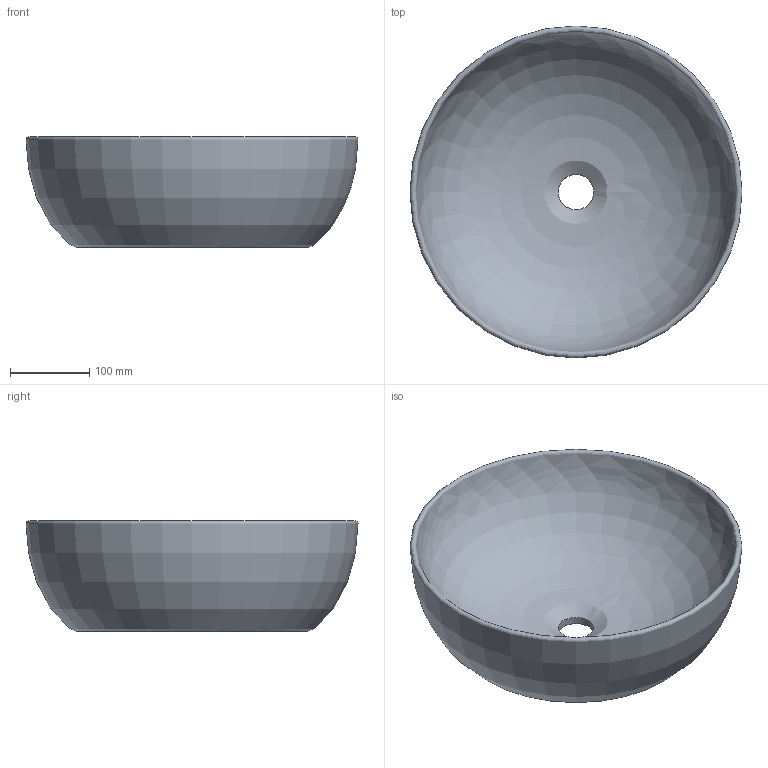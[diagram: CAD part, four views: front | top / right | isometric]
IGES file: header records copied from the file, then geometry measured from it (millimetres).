
Global section: file name: C:\Users\DE NITTO FULVIO\Desktop\Nic\2017\Maggio\Collezione Ovvio\Ovvio Lavabo Bacinella 42\Modello 3D\Ovvio Lavabo Bacinella 42.igs; native system: Rhinoceros ( Oct 24 2012 ); preprocessor: Trout Lake IGES 012 Oct 24 2012; date: 170505.162145; units: millimetre
Bounding box: 420 x 420 x 139.28 mm (x, y, z)
Surface area: 282086.6 mm2 (no closed solid volume)
Topology: 0 solids, 0 shells, 3 faces, 9 edges, 6 vertices
Faces by surface type: bspline 3
